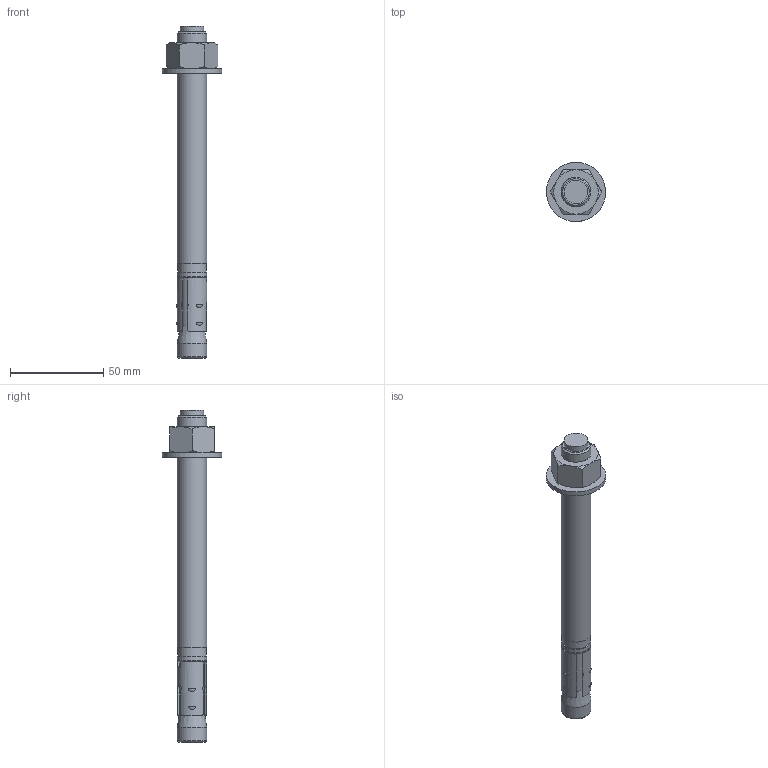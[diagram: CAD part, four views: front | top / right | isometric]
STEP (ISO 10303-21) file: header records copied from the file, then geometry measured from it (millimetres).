
FILE_DESCRIPTION(/* description */ (''),/* implementation_level */ '2;1');
FILE_NAME(/* name */ 'C:\001_Work\Designs\SASE\SASE-0.625 x 7.000 ANCHOR.stp',/* time_stamp */ '2015-10-10T17:07:17-04:00',/* author */ ('rramoutar'),/* organization */ ('Mason Industries Inc.'),/* preprocessor_version */ 'ST-DEVELOPER v15.6',/* originating_system */ 'Autodesk Inventor 2015',/* authorisation */ '');
FILE_SCHEMA (('AUTOMOTIVE_DESIGN { 1 0 10303 214 3 1 1 }'));
Length unit declared in the file: inch
Products named in the file (1): SASE-0.625 x 7.000 ANCHOR
Bounding box: 31.7 x 31.7 x 177.8 mm (x, y, z)
Volume: 39026.3 mm3; surface area: 13516.9 mm2
Topology: 2 solids, 2 shells, 89 faces, 198 edges, 125 vertices
Faces by surface type: plane 41, cylinder 23, cone 17, sphere 6, torus 2
Full cylindrical faces by diameter (mm): 12.7 x2, 15.081 x1, 15.875 x4, 16.662 x1, 31.75 x1
Entity records: 2800 total; most frequent: CARTESIAN_POINT 857, DIRECTION 368, ORIENTED_EDGE 364, EDGE_CURVE 178, AXIS2_PLACEMENT_3D 154, VERTEX_POINT 121, EDGE_LOOP 120, STYLED_ITEM 90
